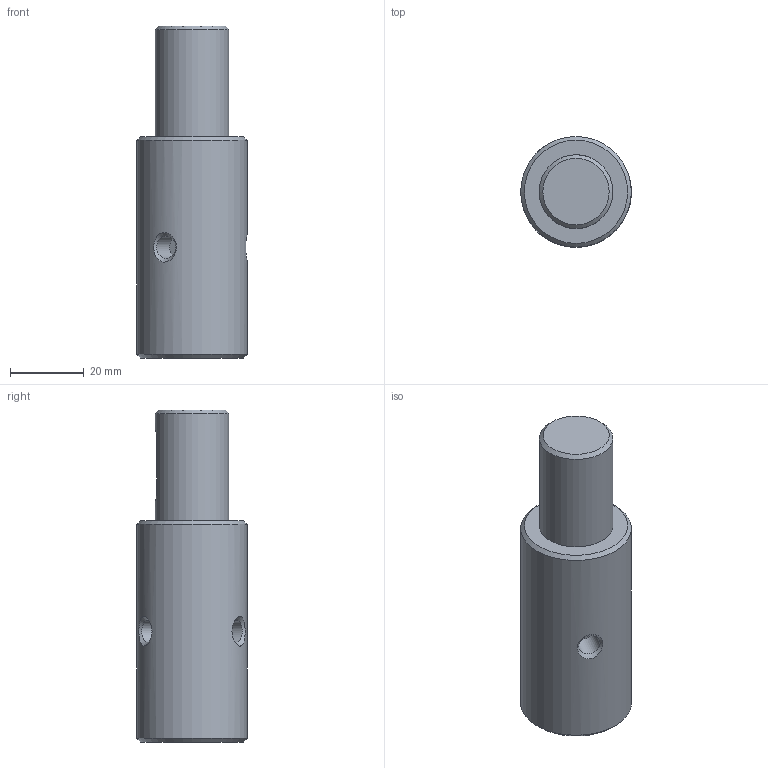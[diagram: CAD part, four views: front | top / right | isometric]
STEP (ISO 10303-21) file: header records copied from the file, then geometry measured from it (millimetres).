
FILE_DESCRIPTION(('FreeCAD Model'),'2;1');
FILE_NAME('Open CASCADE Shape Model','2026-10-08T21:41:43',('FreeCAD'),( 'FreeCAD'),'Open CASCADE STEP processor 7.8','FreeCAD','Unknown');
FILE_SCHEMA(('AUTOMOTIVE_DESIGN { 1 0 10303 214 1 1 1 1 }'));
Length unit declared in the file: millimetre
Products named in the file (1): Open CASCADE STEP translator 7.8 3
Bounding box: 30 x 30 x 90 mm (x, y, z)
Volume: 50007.1 mm3; surface area: 9616.6 mm2
Topology: 1 solids, 1 shells, 29 faces, 64 edges, 42 vertices
Faces by surface type: plane 16, cylinder 7, cone 6
Full cylindrical faces by diameter (mm): 6 x3, 20 x1, 30 x1
Entity records: 1320 total; most frequent: CARTESIAN_POINT 668, DIRECTION 130, ORIENTED_EDGE 128, EDGE_CURVE 64, AXIS2_PLACEMENT_3D 46, VERTEX_POINT 42, LINE 38, VECTOR 38
